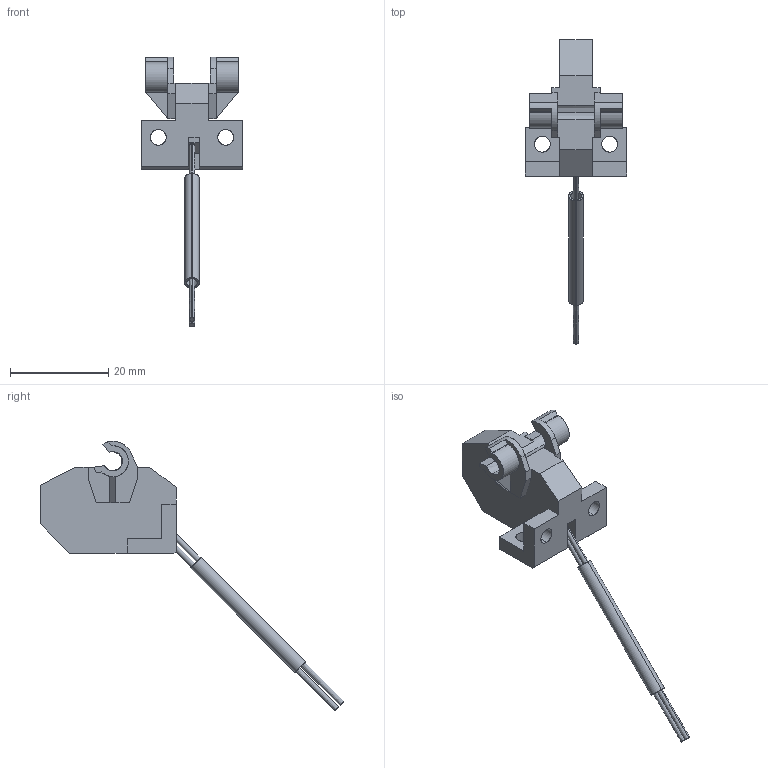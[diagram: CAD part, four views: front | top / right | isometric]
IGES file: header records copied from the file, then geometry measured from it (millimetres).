
Start section: SolidWorks IGES file using analytic representation for surfaces
Global section: file name: C:\catalog\fd-bef40.IGS; native system: SolidWorks 2017; preprocessor: SolidWorks 2017; author: 4056390; date: 200924.103505; units: millimetre
Bounding box: 20.7 x 61.79 x 54.79 mm (x, y, z)
Surface area: 3301.5 mm2 (no closed solid volume)
Topology: 0 solids, 0 shells, 99 faces, 1138 edges, 1138 vertices
Faces by surface type: bspline 69, revolution 30
